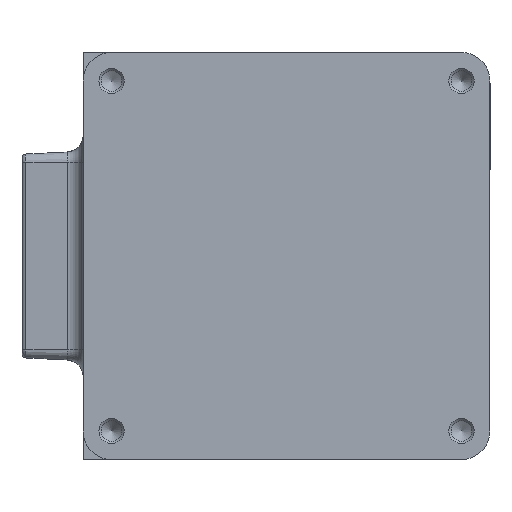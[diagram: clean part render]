
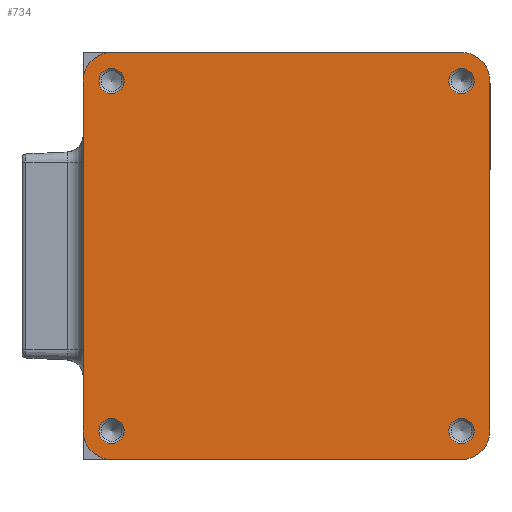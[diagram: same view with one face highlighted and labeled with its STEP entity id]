
A CAD part, front view. The second image highlights one B-rep face of the part: STEP entity #734.
In plain terms, the highlighted planar face has unit normal (0, -1, 0).
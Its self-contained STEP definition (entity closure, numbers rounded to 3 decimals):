
#734=ADVANCED_FACE('',(#1666,#1667,#1668,#1669,#1670),#1671,.F.);
#1666=FACE_BOUND('',#3518,.T.);
#1667=FACE_BOUND('',#3519,.T.);
#1668=FACE_BOUND('',#3520,.T.);
#1669=FACE_BOUND('',#3521,.T.);
#1670=FACE_OUTER_BOUND('',#3522,.T.);
#1671=PLANE('',#3523);
#3518=EDGE_LOOP('',(#6157));
#3519=EDGE_LOOP('',(#6158));
#3520=EDGE_LOOP('',(#6159));
#3521=EDGE_LOOP('',(#6160));
#3522=EDGE_LOOP('',(#6161,#6162,#6163,#6164,#6165,#6166,#6167,#6168));
#3523=AXIS2_PLACEMENT_3D('',#6169,#6170,#6171);
#6157=ORIENTED_EDGE('',*,*,#12612,.T.);
#6158=ORIENTED_EDGE('',*,*,#12613,.T.);
#6159=ORIENTED_EDGE('',*,*,#12614,.T.);
#6160=ORIENTED_EDGE('',*,*,#12615,.T.);
#6161=ORIENTED_EDGE('',*,*,#12616,.T.);
#6162=ORIENTED_EDGE('',*,*,#12554,.T.);
#6163=ORIENTED_EDGE('',*,*,#12412,.T.);
#6164=ORIENTED_EDGE('',*,*,#12617,.F.);
#6165=ORIENTED_EDGE('',*,*,#12455,.T.);
#6166=ORIENTED_EDGE('',*,*,#12557,.F.);
#6167=ORIENTED_EDGE('',*,*,#12550,.T.);
#6168=ORIENTED_EDGE('',*,*,#12560,.T.);
#6169=CARTESIAN_POINT('',(0.0,0.,0.0));
#6170=DIRECTION('',(-0.0,1.0,0.0));
#6171=DIRECTION('',(1.0,0.0,0.0));
#12412=EDGE_CURVE('',#14508,#14521,#14523,.T.);
#12455=EDGE_CURVE('',#14607,#14605,#14608,.T.);
#12550=EDGE_CURVE('',#14780,#14778,#14781,.T.);
#12554=EDGE_CURVE('',#14787,#14508,#14788,.T.);
#12557=EDGE_CURVE('',#14780,#14605,#14791,.T.);
#12560=EDGE_CURVE('',#14778,#14794,#14796,.T.);
#12612=EDGE_CURVE('',#14875,#14875,#14876,.T.);
#12613=EDGE_CURVE('',#14877,#14877,#14878,.T.);
#12614=EDGE_CURVE('',#14879,#14879,#14880,.T.);
#12615=EDGE_CURVE('',#14881,#14881,#14882,.T.);
#12616=EDGE_CURVE('',#14794,#14787,#14883,.T.);
#12617=EDGE_CURVE('',#14607,#14521,#14884,.T.);
#14508=VERTEX_POINT('',#17925);
#14521=VERTEX_POINT('',#17944);
#14523=LINE('',#17947,#17948);
#14605=VERTEX_POINT('',#18057);
#14607=VERTEX_POINT('',#18060);
#14608=LINE('',#18061,#18062);
#14778=VERTEX_POINT('',#18321);
#14780=VERTEX_POINT('',#18324);
#14781=LINE('',#18325,#18326);
#14787=VERTEX_POINT('',#18334);
#14788=CIRCLE('',#18335,3.5);
#14791=CIRCLE('',#18339,3.5);
#14794=VERTEX_POINT('',#18342);
#14796=CIRCLE('',#18345,3.5);
#14875=VERTEX_POINT('',#18450);
#14876=CIRCLE('',#18451,1.55);
#14877=VERTEX_POINT('',#18452);
#14878=CIRCLE('',#18453,1.55);
#14879=VERTEX_POINT('',#18454);
#14880=CIRCLE('',#18455,1.55);
#14881=VERTEX_POINT('',#18456);
#14882=CIRCLE('',#18457,1.55);
#14883=LINE('',#18458,#18459);
#14884=CIRCLE('',#18460,3.5);
#17925=CARTESIAN_POINT('',(-21.5,0.,-25.0));
#17944=CARTESIAN_POINT('',(21.5,0.0,-25.0));
#17947=CARTESIAN_POINT('',(25.0,0.,-25.0));
#17948=VECTOR('',#23041,1.0);
#18057=CARTESIAN_POINT('',(25.0,0.0,21.5));
#18060=CARTESIAN_POINT('',(25.0,0.,-21.5));
#18061=CARTESIAN_POINT('',(25.0,0.,25.0));
#18062=VECTOR('',#23112,1.0);
#18321=CARTESIAN_POINT('',(-21.5,0.,25.0));
#18324=CARTESIAN_POINT('',(21.5,0.,25.0));
#18325=CARTESIAN_POINT('',(-25.0,0.,25.0));
#18326=VECTOR('',#23265,1.0);
#18334=CARTESIAN_POINT('',(-25.0,0.,-21.5));
#18335=AXIS2_PLACEMENT_3D('',#23271,#23272,#23273);
#18339=AXIS2_PLACEMENT_3D('',#23278,#23279,#23280);
#18342=CARTESIAN_POINT('',(-25.0,0.,21.5));
#18345=AXIS2_PLACEMENT_3D('',#23285,#23286,#23287);
#18450=CARTESIAN_POINT('',(-21.5,0.,-19.95));
#18451=AXIS2_PLACEMENT_3D('',#23386,#23387,#23388);
#18452=CARTESIAN_POINT('',(21.5,0.,23.05));
#18453=AXIS2_PLACEMENT_3D('',#23389,#23390,#23391);
#18454=CARTESIAN_POINT('',(-21.5,0.,23.05));
#18455=AXIS2_PLACEMENT_3D('',#23392,#23393,#23394);
#18456=CARTESIAN_POINT('',(21.5,0.,-19.95));
#18457=AXIS2_PLACEMENT_3D('',#23395,#23396,#23397);
#18458=CARTESIAN_POINT('',(-25.0,0.,-25.0));
#18459=VECTOR('',#23398,1.0);
#18460=AXIS2_PLACEMENT_3D('',#23399,#23400,#23401);
#23041=DIRECTION('',(1.0,0.0,0.));
#23112=DIRECTION('',(0.0,0.0,1.0));
#23265=DIRECTION('',(-1.0,0.0,0.));
#23271=CARTESIAN_POINT('',(-21.5,0.,-21.5));
#23272=DIRECTION('',(0.0,-1.0,0.0));
#23273=DIRECTION('',(0.0,0.0,1.0));
#23278=CARTESIAN_POINT('',(21.5,0.0,21.5));
#23279=DIRECTION('',(0.0,1.0,0.0));
#23280=DIRECTION('',(0.0,0.0,1.0));
#23285=CARTESIAN_POINT('',(-21.5,0.,21.5));
#23286=DIRECTION('',(0.0,-1.0,0.0));
#23287=DIRECTION('',(0.0,0.0,1.0));
#23386=CARTESIAN_POINT('',(-21.5,0.,-21.5));
#23387=DIRECTION('',(0.0,1.0,0.0));
#23388=DIRECTION('',(0.0,0.0,1.0));
#23389=CARTESIAN_POINT('',(21.5,0.,21.5));
#23390=DIRECTION('',(0.0,1.0,0.0));
#23391=DIRECTION('',(0.0,0.0,1.0));
#23392=CARTESIAN_POINT('',(-21.5,0.,21.5));
#23393=DIRECTION('',(0.0,1.0,0.0));
#23394=DIRECTION('',(0.0,0.0,1.0));
#23395=CARTESIAN_POINT('',(21.5,0.,-21.5));
#23396=DIRECTION('',(0.0,1.0,0.0));
#23397=DIRECTION('',(0.0,0.0,1.0));
#23398=DIRECTION('',(0.0,0.0,-1.0));
#23399=CARTESIAN_POINT('',(21.5,0.0,-21.5));
#23400=DIRECTION('',(0.0,1.0,0.0));
#23401=DIRECTION('',(0.0,0.0,1.0));
